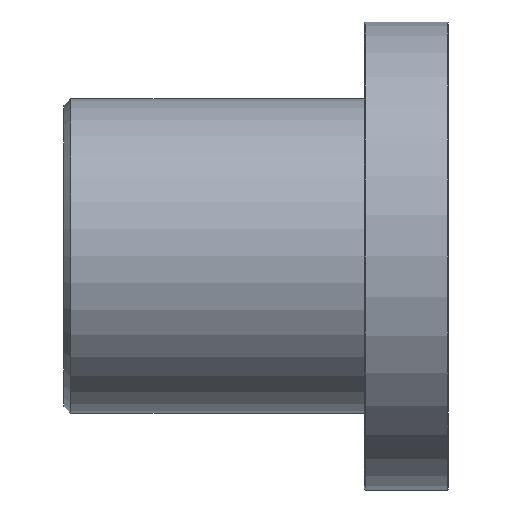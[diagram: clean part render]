
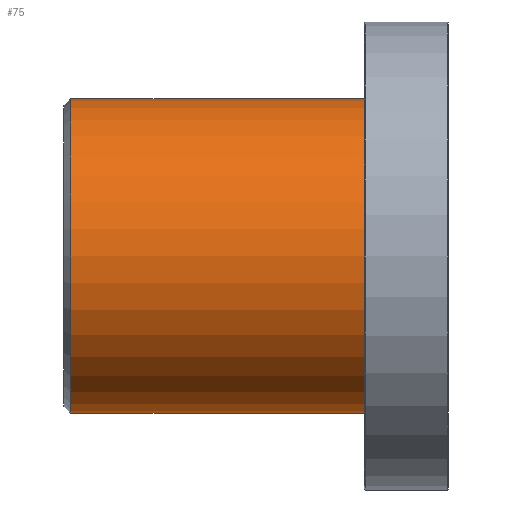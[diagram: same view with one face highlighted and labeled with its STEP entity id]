
A CAD part, front view. The second image highlights one B-rep face of the part: STEP entity #75.
In plain terms, the highlighted cylindrical face has radius 45 mm (diameter 90 mm), a full revolution.
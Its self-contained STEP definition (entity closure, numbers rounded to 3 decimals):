
#75=ADVANCED_FACE('',(#97,#98),#99,.T.);
#97=FACE_OUTER_BOUND('',#168,.T.);
#98=FACE_OUTER_BOUND('',#169,.T.);
#99=CYLINDRICAL_SURFACE('',#170,45.0);
#168=EDGE_LOOP('',(#239));
#169=EDGE_LOOP('',(#240));
#170=AXIS2_PLACEMENT_3D('',#241,#242,#243);
#239=ORIENTED_EDGE('',*,*,#352,.F.);
#240=ORIENTED_EDGE('',*,*,#353,.T.);
#241=CARTESIAN_POINT('',(-110.0,0.0,0.0));
#242=DIRECTION('',(-1.0,-0.0,-0.0));
#243=DIRECTION('',(0.0,0.0,-1.0));
#352=EDGE_CURVE('',#377,#377,#378,.T.);
#353=EDGE_CURVE('',#379,#379,#380,.T.);
#377=VERTEX_POINT('',#427);
#378=CIRCLE('',#428,45.0);
#379=VERTEX_POINT('',#429);
#380=CIRCLE('',#430,45.0);
#427=CARTESIAN_POINT('',(-24.0,0.0,-45.0));
#428=AXIS2_PLACEMENT_3D('',#477,#478,#479);
#429=CARTESIAN_POINT('',(-108.0,0.0,-45.0));
#430=AXIS2_PLACEMENT_3D('',#480,#481,#482);
#477=CARTESIAN_POINT('',(-24.0,0.0,0.0));
#478=DIRECTION('',(1.0,0.0,0.0));
#479=DIRECTION('',(0.0,0.0,-1.0));
#480=CARTESIAN_POINT('',(-108.0,0.0,0.0));
#481=DIRECTION('',(1.0,0.0,0.0));
#482=DIRECTION('',(0.0,0.0,-1.0));
